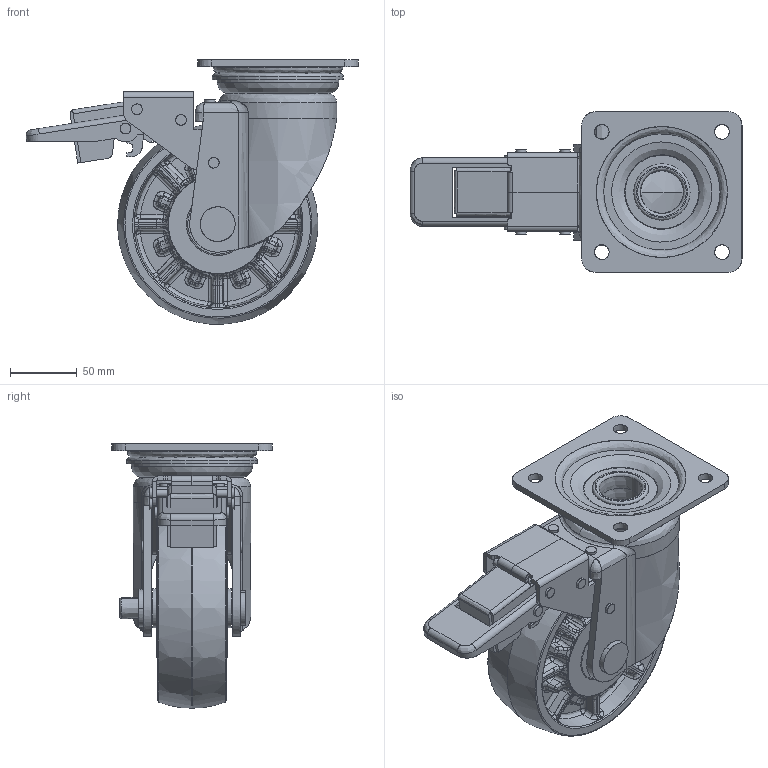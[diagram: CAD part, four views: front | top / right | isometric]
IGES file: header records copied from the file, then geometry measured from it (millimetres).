
Start section: JAMA-IS VERSION  1.0
Global section: file name: C:\CAM-TOOL data\ToolsFile\INOAC車輪\2月\HE-150WJS\HE-150WJS-ALL.igs; native system: CAM-TOOL; preprocessor: C3out Version 11.1.1.50212 (2015/02/12); author: NONE; organization: NONE; date: 230227.092106; units: millimetre
Bounding box: 248.57 x 120 x 197.86 mm (x, y, z)
Surface area: 292951.2 mm2 (no closed solid volume)
Topology: 0 solids, 0 shells, 1642 faces, 16585 edges, 16338 vertices
Faces by surface type: bspline 1642
